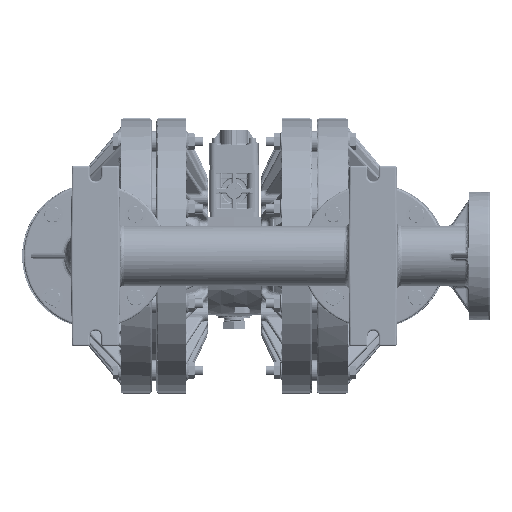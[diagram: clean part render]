
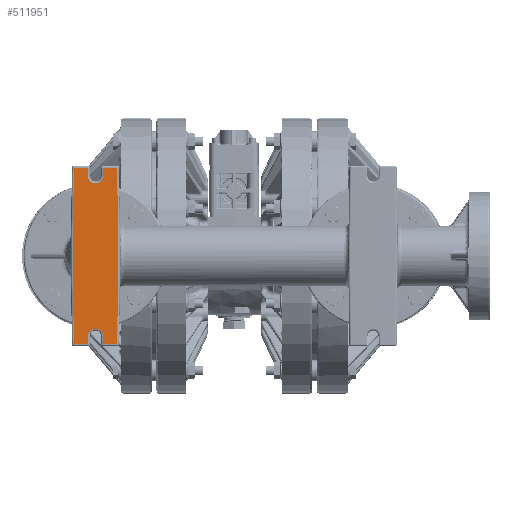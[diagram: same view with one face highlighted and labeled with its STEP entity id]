
A CAD part, front view. The second image highlights one B-rep face of the part: STEP entity #511951.
In plain terms, the highlighted planar face has unit normal (0, -1, 0).
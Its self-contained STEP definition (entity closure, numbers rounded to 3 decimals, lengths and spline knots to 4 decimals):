
#1617 = VECTOR ( 'NONE', #720861, 39.3701 ) ;
#8724 = CARTESIAN_POINT ( 'NONE',  ( -6.62, -15.22, 4.45 ) ) ;
#11922 = CARTESIAN_POINT ( 'NONE',  ( -8.0917, -15.22, 4.45 ) ) ;
#16910 = VECTOR ( 'NONE', #613975, 39.3701 ) ;
#20852 = CIRCLE ( 'NONE', #669993, 0.38 ) ;
#24215 = ORIENTED_EDGE ( 'NONE', *, *, #113527, .F. ) ;
#33263 = ORIENTED_EDGE ( 'NONE', *, *, #53592, .F. ) ;
#46217 = ORIENTED_EDGE ( 'NONE', *, *, #522539, .F. ) ;
#53592 = EDGE_CURVE ( 'NONE', #348703, #261832, #555765, .T. ) ;
#55284 = ORIENTED_EDGE ( 'NONE', *, *, #144035, .F. ) ;
#56726 = EDGE_CURVE ( 'NONE', #562661, #753267, #556786, .T. ) ;
#59138 = EDGE_CURVE ( 'NONE', #261832, #191459, #192651, .T. ) ;
#68536 = DIRECTION ( 'NONE',  ( -0.013, 0., -1. ) ) ;
#71235 = LINE ( 'NONE', #308875, #405903 ) ;
#73818 = CARTESIAN_POINT ( 'NONE',  ( -5.75, -15.22, 4.55 ) ) ;
#80901 = ORIENTED_EDGE ( 'NONE', *, *, #244503, .F. ) ;
#87144 = CARTESIAN_POINT ( 'NONE',  ( -6.62, -15.22, -4.04 ) ) ;
#87338 = CARTESIAN_POINT ( 'NONE',  ( -7.38, -15.22, -4.45 ) ) ;
#101040 = LINE ( 'NONE', #407488, #649302 ) ;
#112004 = ORIENTED_EDGE ( 'NONE', *, *, #181761, .F. ) ;
#112867 = CARTESIAN_POINT ( 'NONE',  ( -6.62, -15.22, -4.45 ) ) ;
#113527 = EDGE_CURVE ( 'NONE', #548642, #135912, #277826, .T. ) ;
#131373 = DIRECTION ( 'NONE',  ( 0., 0., -1. ) ) ;
#135912 = VERTEX_POINT ( 'NONE', #87144 ) ;
#144035 = EDGE_CURVE ( 'NONE', #256000, #222235, #671529, .T. ) ;
#151452 = CARTESIAN_POINT ( 'NONE',  ( -6.62, -15.22, -4.45 ) ) ;
#166168 = DIRECTION ( 'NONE',  ( 1., 0., 0. ) ) ;
#172579 = VERTEX_POINT ( 'NONE', #303291 ) ;
#181761 = EDGE_CURVE ( 'NONE', #135912, #256000, #471419, .T. ) ;
#189321 = LINE ( 'NONE', #193071, #529567 ) ;
#191459 = VERTEX_POINT ( 'NONE', #697431 ) ;
#192651 = LINE ( 'NONE', #8724, #358954 ) ;
#193071 = CARTESIAN_POINT ( 'NONE',  ( -5.9083, -15.22, -4.45 ) ) ;
#208411 = ORIENTED_EDGE ( 'NONE', *, *, #595349, .F. ) ;
#210850 = EDGE_CURVE ( 'NONE', #222235, #425015, #347727, .T. ) ;
#211794 = CARTESIAN_POINT ( 'NONE',  ( -7.38, -15.22, 4.45 ) ) ;
#219749 = ORIENTED_EDGE ( 'NONE', *, *, #59138, .F. ) ;
#219965 = CARTESIAN_POINT ( 'NONE',  ( -8.15, -15.22, 0. ) ) ;
#222235 = VERTEX_POINT ( 'NONE', #87338 ) ;
#225205 = CARTESIAN_POINT ( 'NONE',  ( -7.38, -15.22, -4.45 ) ) ;
#226922 = AXIS2_PLACEMENT_3D ( 'NONE', #73818, #422768, #131373 ) ;
#244503 = EDGE_CURVE ( 'NONE', #674982, #667226, #680670, .T. ) ;
#254314 = EDGE_CURVE ( 'NONE', #667226, #562661, #599889, .T. ) ;
#254339 = DIRECTION ( 'NONE',  ( -1., 0., 0. ) ) ;
#256000 = VERTEX_POINT ( 'NONE', #601402 ) ;
#261832 = VERTEX_POINT ( 'NONE', #505123 ) ;
#263475 = AXIS2_PLACEMENT_3D ( 'NONE', #514931, #384776, #166168 ) ;
#266897 = ORIENTED_EDGE ( 'NONE', *, *, #56726, .F. ) ;
#270490 = CARTESIAN_POINT ( 'NONE',  ( -8.15, -15.22, 0. ) ) ;
#277826 = LINE ( 'NONE', #151452, #577220 ) ;
#286716 = DIRECTION ( 'NONE',  ( -1., 0., 0. ) ) ;
#289921 = EDGE_CURVE ( 'NONE', #425015, #674982, #101040, .T. ) ;
#298033 = CARTESIAN_POINT ( 'NONE',  ( -7., -15.22, 4.04 ) ) ;
#303291 = CARTESIAN_POINT ( 'NONE',  ( -5.9083, -15.22, -4.45 ) ) ;
#308875 = CARTESIAN_POINT ( 'NONE',  ( -5.9083, -15.22, 4.45 ) ) ;
#311376 = DIRECTION ( 'NONE',  ( 1., 0., 0. ) ) ;
#312649 = DIRECTION ( 'NONE',  ( 0.013, 0., -1. ) ) ;
#315098 = CARTESIAN_POINT ( 'NONE',  ( -7.38, -15.22, -4.04 ) ) ;
#322257 = CARTESIAN_POINT ( 'NONE',  ( -7.38, -15.22, 4.04 ) ) ;
#347727 = LINE ( 'NONE', #225205, #464987 ) ;
#348703 = VERTEX_POINT ( 'NONE', #563687 ) ;
#357712 = PLANE ( 'NONE',  #226922 ) ;
#358954 = VECTOR ( 'NONE', #311376, 39.3701 ) ;
#361489 = FACE_OUTER_BOUND ( 'NONE', #432904, .T. ) ;
#369825 = DIRECTION ( 'NONE',  ( 1., 0., 0. ) ) ;
#370287 = VECTOR ( 'NONE', #68536, 39.3701 ) ;
#384776 = DIRECTION ( 'NONE',  ( 0., -1., 0. ) ) ;
#395292 = ORIENTED_EDGE ( 'NONE', *, *, #289921, .F. ) ;
#405903 = VECTOR ( 'NONE', #312649, 39.3701 ) ;
#407488 = CARTESIAN_POINT ( 'NONE',  ( -8.0917, -15.22, -4.45 ) ) ;
#411067 = EDGE_CURVE ( 'NONE', #191459, #740188, #71235, .T. ) ;
#413813 = EDGE_CURVE ( 'NONE', #172579, #548642, #189321, .T. ) ;
#420921 = ORIENTED_EDGE ( 'NONE', *, *, #411067, .F. ) ;
#422768 = DIRECTION ( 'NONE',  ( 0., -1., 0. ) ) ;
#424969 = LINE ( 'NONE', #478720, #370287 ) ;
#425015 = VERTEX_POINT ( 'NONE', #443393 ) ;
#432904 = EDGE_LOOP ( 'NONE', ( #208411, #420921, #219749, #33263, #46217, #266897, #723539, #80901, #395292, #542161, #55284, #112004, #24215, #646072 ) ) ;
#443393 = CARTESIAN_POINT ( 'NONE',  ( -8.0917, -15.22, -4.45 ) ) ;
#455440 = DIRECTION ( 'NONE',  ( 0., -1., 0. ) ) ;
#464987 = VECTOR ( 'NONE', #631562, 39.3701 ) ;
#471419 = CIRCLE ( 'NONE', #263475, 0.38 ) ;
#477384 = CARTESIAN_POINT ( 'NONE',  ( -8.0917, -15.22, 4.45 ) ) ;
#478720 = CARTESIAN_POINT ( 'NONE',  ( -5.85, -15.22, 0. ) ) ;
#486968 = CARTESIAN_POINT ( 'NONE',  ( -6.62, -15.22, 4.04 ) ) ;
#487973 = DIRECTION ( 'NONE',  ( 0., 0., -1. ) ) ;
#505123 = CARTESIAN_POINT ( 'NONE',  ( -6.62, -15.22, 4.45 ) ) ;
#511951 = ADVANCED_FACE ( 'NONE', ( #361489 ), #357712, .T. ) ;
#514931 = CARTESIAN_POINT ( 'NONE',  ( -7., -15.22, -4.04 ) ) ;
#514949 = DIRECTION ( 'NONE',  ( -0.013, 0., 1. ) ) ;
#522539 = EDGE_CURVE ( 'NONE', #753267, #348703, #20852, .T. ) ;
#529567 = VECTOR ( 'NONE', #254339, 39.3701 ) ;
#542161 = ORIENTED_EDGE ( 'NONE', *, *, #210850, .F. ) ;
#548642 = VERTEX_POINT ( 'NONE', #112867 ) ;
#555765 = LINE ( 'NONE', #486968, #1617 ) ;
#556081 = VECTOR ( 'NONE', #369825, 39.3701 ) ;
#556170 = CARTESIAN_POINT ( 'NONE',  ( -5.85, -15.22, 0. ) ) ;
#556786 = LINE ( 'NONE', #211794, #725115 ) ;
#562661 = VERTEX_POINT ( 'NONE', #649186 ) ;
#563687 = CARTESIAN_POINT ( 'NONE',  ( -6.62, -15.22, 4.04 ) ) ;
#577220 = VECTOR ( 'NONE', #749345, 39.3701 ) ;
#595349 = EDGE_CURVE ( 'NONE', #740188, #172579, #424969, .T. ) ;
#599889 = LINE ( 'NONE', #477384, #556081 ) ;
#601402 = CARTESIAN_POINT ( 'NONE',  ( -7.38, -15.22, -4.04 ) ) ;
#613042 = VECTOR ( 'NONE', #615549, 39.3701 ) ;
#613975 = DIRECTION ( 'NONE',  ( 0., 0., -1. ) ) ;
#615549 = DIRECTION ( 'NONE',  ( 0.013, 0., 1. ) ) ;
#631562 = DIRECTION ( 'NONE',  ( -1., 0., 0. ) ) ;
#646072 = ORIENTED_EDGE ( 'NONE', *, *, #413813, .F. ) ;
#649186 = CARTESIAN_POINT ( 'NONE',  ( -7.38, -15.22, 4.45 ) ) ;
#649302 = VECTOR ( 'NONE', #514949, 39.3701 ) ;
#667226 = VERTEX_POINT ( 'NONE', #11922 ) ;
#669993 = AXIS2_PLACEMENT_3D ( 'NONE', #298033, #455440, #286716 ) ;
#671529 = LINE ( 'NONE', #315098, #16910 ) ;
#674982 = VERTEX_POINT ( 'NONE', #219965 ) ;
#680670 = LINE ( 'NONE', #270490, #613042 ) ;
#697431 = CARTESIAN_POINT ( 'NONE',  ( -5.9083, -15.22, 4.45 ) ) ;
#720861 = DIRECTION ( 'NONE',  ( 0., 0., 1. ) ) ;
#723539 = ORIENTED_EDGE ( 'NONE', *, *, #254314, .F. ) ;
#725115 = VECTOR ( 'NONE', #487973, 39.3701 ) ;
#740188 = VERTEX_POINT ( 'NONE', #556170 ) ;
#749345 = DIRECTION ( 'NONE',  ( 0., 0., 1. ) ) ;
#753267 = VERTEX_POINT ( 'NONE', #322257 ) ;
